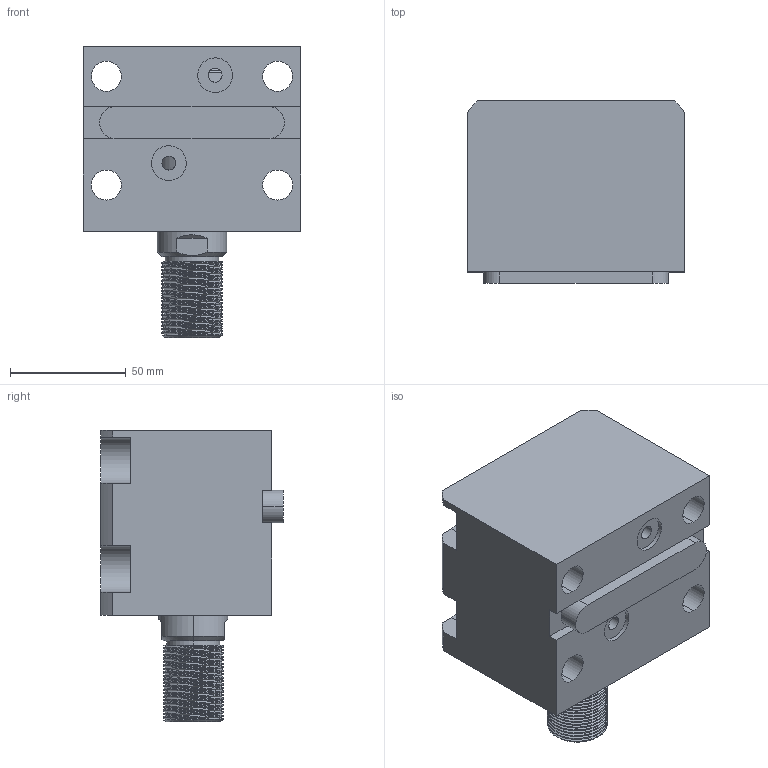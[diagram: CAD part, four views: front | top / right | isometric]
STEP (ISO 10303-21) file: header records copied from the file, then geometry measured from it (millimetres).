
FILE_DESCRIPTION (( 'STEP AP203' ), '1' );
FILE_NAME ('CHTB-LAM50-20W.STEP', '2018-05-23T10:07:54', ( '' ), ( '' ), 'SwSTEP 2.0', 'SolidWorks 2015', '' );
FILE_SCHEMA (( 'CONFIG_CONTROL_DESIGN' ));
Length unit declared in the file: millimetre
Products named in the file (4): 活塞杆LAM50-20W; 掛极LAM50-20W; CHTB-LAM50-20W; CHTM-SDMA50QG
Assembly tree (3 placements, depth 2):
  CHTB-LAM50-20W
    掛极LAM50-20W
    活塞杆LAM50-20W
    CHTM-SDMA50QG
Bounding box: 94 x 79 x 126 mm (x, y, z)
Volume: 503352 mm3; surface area: 97959.2 mm2
Topology: 3 solids, 3 shells, 235 faces, 653 edges, 436 vertices
Faces by surface type: cylinder 136, plane 54, bspline 16, torus 16, cone 13
Entity records: 14755 total; most frequent: CARTESIAN_POINT 8800, ORIENTED_EDGE 1298, DIRECTION 1029, EDGE_CURVE 649, VERTEX_POINT 436, AXIS2_PLACEMENT_3D 396, EDGE_LOOP 265, VECTOR 237
